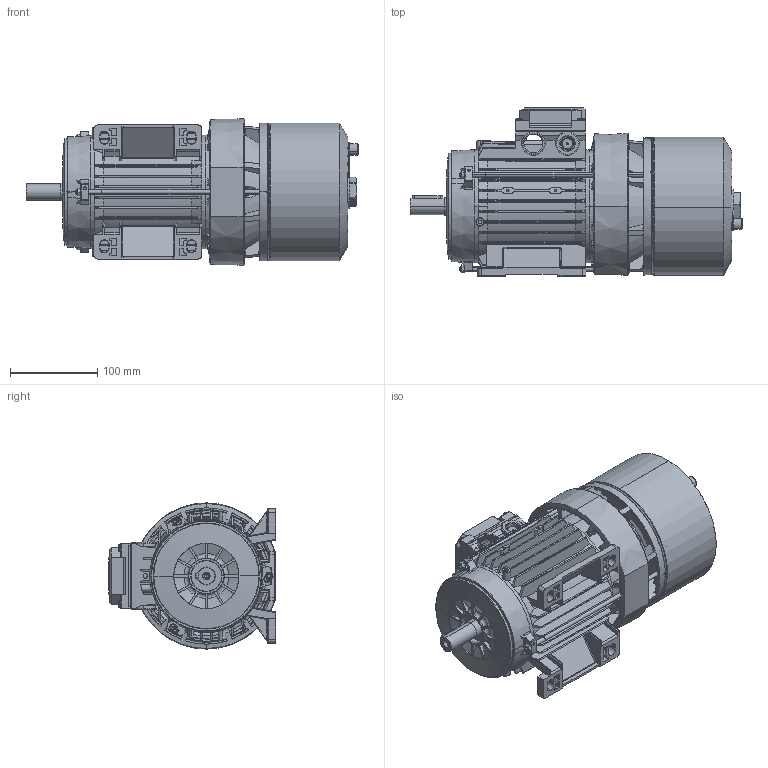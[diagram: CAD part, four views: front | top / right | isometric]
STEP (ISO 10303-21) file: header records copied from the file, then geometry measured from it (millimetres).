
FILE_DESCRIPTION (( 'STEP AP214' ), '1' );
FILE_NAME ('M02DA0010.STEP', '2019-01-31T09:42:59', ( '' ), ( '' ), 'SwSTEP 2.0', 'SolidWorks 2018', '' );
FILE_SCHEMA (( 'AUTOMOTIVE_DESIGN' ));
Length unit declared in the file: millimetre
Products named in the file (16): Cuffia serie BA 80; Convogliatore con pista d''attrito P2 BA80; Scudo Lato Freno BA80 P1; Carcassa 80 B3; M02DA0010; Guarnizione Scatola Singola 63-71-80; Coperchio per Scatola Singola 63-71-80 con viti; Vite per coperchio morsettiera; Coperchio per Scatola Singola 63-71-80 - DBAN0095; O-ring freno BA80; Vite a Testa Esagona con foro e tappo 71-112 - Modificata; Dado M5; Tirante BA 80 - DBA60094; Scudo Lato Comando B3 BA-BM 80 - DCAD0094; Chiavetta 80; Albero BA 80
Assembly tree (22 placements, depth 3):
  M02DA0010
    Carcassa 80 B3
    Scudo Lato Freno BA80 P1
    Convogliatore con pista d''attrito P2 BA80
    Cuffia serie BA 80
    Albero BA 80
    Chiavetta 80
    Scudo Lato Comando B3 BA-BM 80 - DCAD0094
    Tirante BA 80 - DBA60094  x3
    Dado M5  x3
    Vite a Testa Esagona con foro e tappo 71-112 - Modificata
    O-ring freno BA80
    Coperchio per Scatola Singola 63-71-80 con viti
      Coperchio per Scatola Singola 63-71-80 - DBAN0095
      Vite per coperchio morsettiera  x4
      Guarnizione Scatola Singola 63-71-80
Bounding box: 381.5 x 193 x 168 mm (x, y, z)
Volume: 1176796.9 mm3; surface area: 723562.9 mm2
Topology: 24 solids, 24 shells, 2959 faces, 8112 edges, 5203 vertices
Faces by surface type: plane 1037, cylinder 890, cone 380, torus 379, bspline 269, sphere 4
Entity records: 105678 total; most frequent: CARTESIAN_POINT 39293, ORIENTED_EDGE 14882, DIRECTION 12226, EDGE_CURVE 7441, VERTEX_POINT 4817, AXIS2_PLACEMENT_3D 4637, LINE 2952, VECTOR 2952
